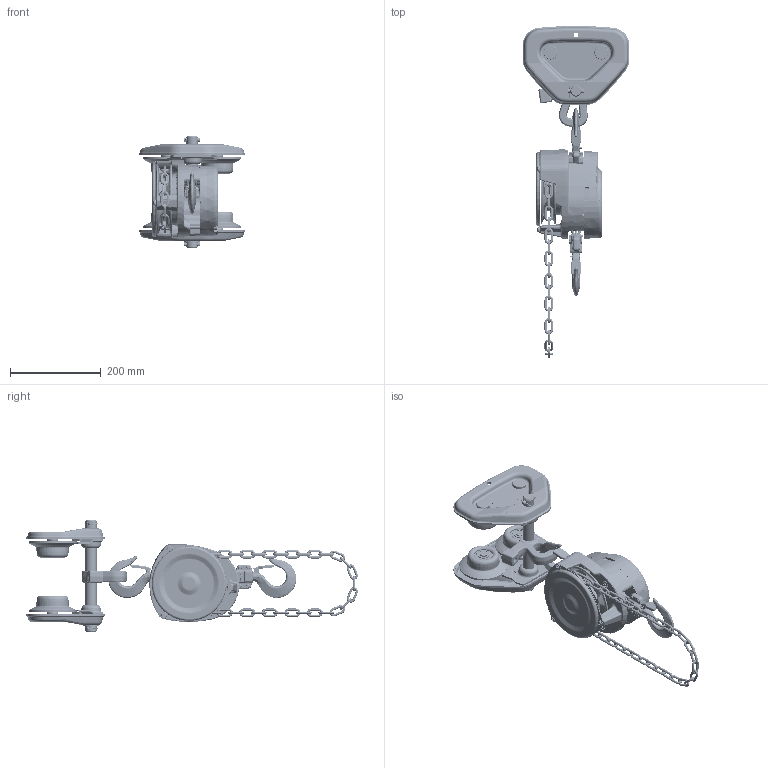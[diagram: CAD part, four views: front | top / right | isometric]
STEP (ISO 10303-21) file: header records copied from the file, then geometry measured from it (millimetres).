
FILE_DESCRIPTION (( 'STEP AP214' ), '1' );
FILE_NAME ('CF010 with PTF2010.STEP', '2026-08-18T12:30:29', ( '' ), ( '' ), 'SwSTEP 2.0', 'SolidWorks 2026', '' );
FILE_SCHEMA (( 'AUTOMOTIVE_DESIGN' ));
Length unit declared in the file: millimetre
Products named in the file (45): LCCF010; C1FA010-91052; 9098506_9098506; 9047115_9047115; 9009411_9009411; HCCF005 FOR CF010; 9009423_9009423; CF071010; C1FA010-91013; T6GA0109113; M3041010; T7G115010; 9012711_9012711; T6GA0109103; T6G800010P; 9091272_9091272; CF164010; C3BA010-90011; 9091282_9091282; C3BA010-90312; MS104010; T6G5112010; CF010 with PTF2010; HCCF005; T7G117010; C4FA010-91151; CF187005; 9091284_9091284; M3021A010; LCCF010 (4 LINKS); C2FA010-91711; T6GA0109101; CF010; T6G5102010; T6G156010; CF001010_90 DEGREE; PTF2010_5" FLANGE; T7GC004010; 6302Z BEARING; C1FA015-91561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
Assembly tree (117 placements, depth 4):
  CF010 with PTF2010
    PTF2010_5" FLANGE
      T6G5112010  x2
        T6GA0109112
        T6GA0109113
        T6GA0109103
      T6G5102010  x4
        T6GA0109101
        6302Z BEARING
      MS104010  x4
      9047115_9047115  x4
      T6G800010P
      T7G115010
      T7G117010
      T6G156010  x2
      9009423_9009423  x2
    CF010
      C1FA010-91021
      C1FA010-91013
      C1FA010-91052
      CF001010_90 DEGREE
        C3BA010-90011
        C1FA010-90112  x2
        CF071010
      C4FA010-91151
      C2FA010-91711
      9098506_9098506  x5
      9091284_9091284  x2
      9091272_9091272
      CF164010
      M3021A010
        C3BA010-90312  x2
        C3BA010-90011
        CF071010
      M3041010
      M2049010
      9009411_9009411
      LCCF010 (4 LINKS)
        LCCF010  x8
      9012711_9012711  x3
      CF187005  x3
      C1FA015-91561
      9091282_9091282  x2
      80347
      HCCF005 FOR CF010
        HCCF005  x40
    T7GC004010
Bounding box: 236 x 733.02 x 249 mm (x, y, z)
Volume: 2375861.7 mm3; surface area: 1049433.6 mm2
Topology: 112 solids, 128 shells, 8207 faces, 21165 edges, 13265 vertices
Faces by surface type: plane 2506, torus 1799, cylinder 1635, cone 1117, bspline 1067, sphere 83
Entity records: 307090 total; most frequent: CARTESIAN_POINT 151548, ORIENTED_EDGE 28130, DIRECTION 25119, EDGE_CURVE 14067, AXIS2_PLACEMENT_3D 10376, VERTEX_POINT 9043, EDGE_LOOP 5810, CIRCLE 5753
